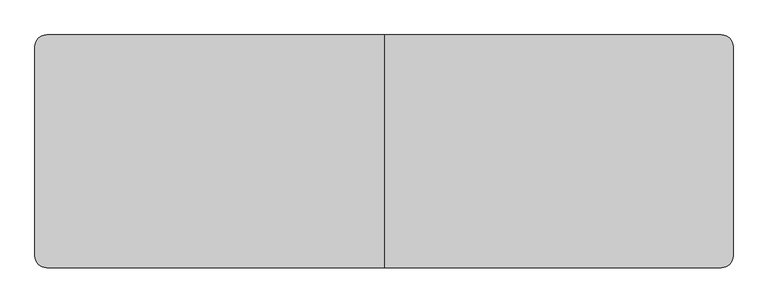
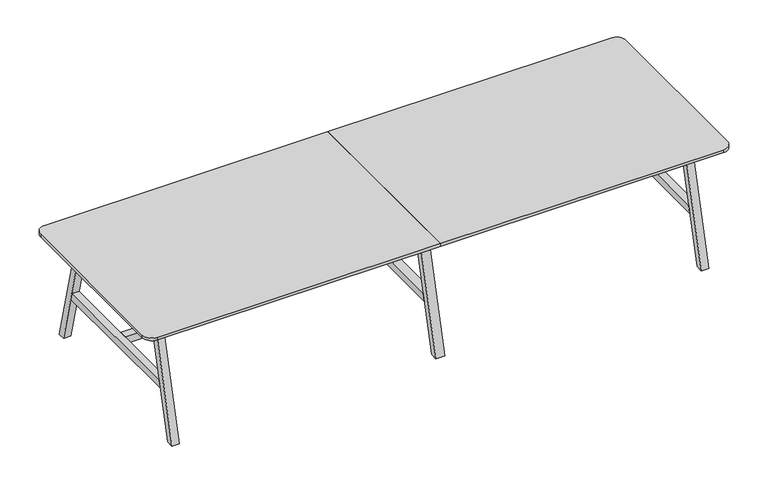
"""IFC4 building model written with IfcOpenShell, lengths in millimetres: furniture geometry, BDG_BossDesign_Tbls_AgentTables6Legs : AGE-DT-6L-3600-1200-3D."""

from ifc_helpers import new_model, si_unit, point, frame, frame_2d, origin, place, context, project, spatial, polyline, circle_curve, trimmed, segment, composite_curve, outline, extrude, source, transform, mapped, element, save


def furniture_ee9454a6(model_context):
    return source(origin(), model_context, "Body", "SweptSolid", [
        extrude(outline(polyline([(600.0, 0.0), (554.9999949, 0.0), (385.5, 660.0), (430.5000051, 660.0), (600.0, 0.0)])), frame((-27.5, 0.0, 0.0), z_axis=(1.0, 0.0, 0.0), x_axis=(0.0, 1.0, 0.0)), (0.0, 0.0, 1.0), 55.0),
        extrude(outline(polyline([(-600.0, 0.0), (-430.5000051, 660.0), (-385.5, 660.0), (-554.9999949, 0.0), (-600.0, 0.0)])), frame((-27.5, 0.0, 0.0), z_axis=(1.0, 0.0, 0.0), x_axis=(0.0, 1.0, 0.0)), (0.0, 0.0, 1.0), 55.0),
        extrude(outline(polyline([(477.9545427, 300.0), (-477.9545427, 300.0), (-466.3977249, 345.0), (466.3977249, 345.0), (477.9545427, 300.0)])), frame((-27.5, 0.0, 0.0), z_axis=(1.0, 0.0, 0.0), x_axis=(0.0, 1.0, 0.0)), (0.0, 0.0, 1.0), 55.0),
        extrude(outline(composite_curve([segment(polyline([(0.0, 600.0), (0.0, -600.0), (-1740.0, -600.0)]), True, "CONTINUOUS"), segment(trimmed(circle_curve(frame_2d((-1740.0, -540.0)), 60.0), [point((-1740.0, -600.0))], [point((-1800.0, -540.0))], False, "CARTESIAN"), True, "CONTINUOUS"), segment(polyline([(-1800.0, -540.0), (-1800.0, 540.0)]), True, "CONTINUOUS"), segment(trimmed(circle_curve(frame_2d((-1740.0, 540.0)), 60.0), [point((-1800.0, 540.0))], [point((-1740.0, 600.0))], False, "CARTESIAN"), True, "CONTINUOUS"), segment(polyline([(-1740.0, 600.0), (0.0, 600.0)]), True, "CONTINUOUS")], self_intersect=False)), frame((0.0, 0.0, 722.0), z_axis=(0.0, 0.0, 1.0), x_axis=(1.0, 0.0, 0.0)), (0.0, 0.0, 1.0), 18.0),
        extrude(outline(polyline([(-466.3977249, 345.0), (466.3977249, 345.0), (477.9545427, 300.0), (-477.9545427, 300.0), (-466.3977249, 345.0)])), frame((1605.0, 0.0, 0.0), z_axis=(1.0, 0.0, 0.0), x_axis=(0.0, 1.0, 0.0)), (0.0, 0.0, 1.0), 45.0),
        extrude(outline(polyline([(600.0, 0.0), (554.9999949, 0.0), (385.5, 660.0), (430.5000051, 660.0), (600.0, 0.0)])), frame((-1650.0, 0.0, 0.0), z_axis=(1.0, 0.0, 0.0), x_axis=(0.0, 1.0, 0.0)), (0.0, 0.0, 1.0), 45.0),
        extrude(outline(polyline([(-600.0, 0.0), (-430.5000051, 660.0), (-385.5, 660.0), (-554.9999949, 0.0), (-600.0, 0.0)])), frame((-1650.0, 0.0, 0.0), z_axis=(1.0, 0.0, 0.0), x_axis=(0.0, 1.0, 0.0)), (0.0, 0.0, 1.0), 45.0),
        extrude(outline(polyline([(-466.3977249, 345.0), (466.3977249, 345.0), (477.9545427, 300.0), (-477.9545427, 300.0), (-466.3977249, 345.0)])), frame((-1650.0, 0.0, 0.0), z_axis=(1.0, 0.0, 0.0), x_axis=(0.0, 1.0, 0.0)), (0.0, 0.0, 1.0), 45.0),
        extrude(outline(polyline([(-426.6006165, 634.973938), (-404.2770691, 722.0), (-379.5, 722.0), (-401.8235474, 634.973938), (-426.6006165, 634.973938)])), frame((-1605.0, 0.0, 0.0), z_axis=(1.0, 0.0, 0.0), x_axis=(0.0, 1.0, 0.0)), (0.0, 0.0, 1.0), 3210.0),
        extrude(outline(polyline([(426.6006165, 634.973938), (401.8235474, 634.973938), (379.5, 722.0), (404.2770691, 722.0), (426.6006165, 634.973938)])), frame((-1605.0, 0.0, 0.0), z_axis=(1.0, 0.0, 0.0), x_axis=(0.0, 1.0, 0.0)), (0.0, 0.0, 1.0), 3210.0),
        extrude(outline(polyline([(599.7999878, 0.0), (554.7999827, 0.0), (385.5, 660.0), (430.5000051, 660.0), (599.7999878, 0.0)])), frame((1605.0, 0.0, 0.0), z_axis=(1.0, 0.0, 0.0), x_axis=(0.0, 1.0, 0.0)), (0.0, 0.0, 1.0), 45.0),
        extrude(outline(polyline([(-599.7999878, 0.0), (-430.5000051, 660.0), (-385.5, 660.0), (-554.7999827, 0.0), (-599.7999878, 0.0)])), frame((1605.0, 0.0, 0.0), z_axis=(1.0, 0.0, 0.0), x_axis=(0.0, 1.0, 0.0)), (0.0, 0.0, 1.0), 45.0),
        extrude(outline(polyline([(-27.5, 22.5000305), (-27.5, -22.5000305), (-1605.0, -22.5000305), (-1605.0, 22.5000305), (-27.5, 22.5000305)])), frame((0.0, 0.0, 300.0), z_axis=(0.0, 0.0, 1.0), x_axis=(1.0, 0.0, 0.0)), (0.0, 0.0, 1.0), 45.0),
        extrude(outline(polyline([(27.5, -22.5000305), (27.5, 22.5000305), (1605.0, 22.5000305), (1605.0, -22.5000305), (27.5, -22.5000305)])), frame((0.0, 0.0, 300.0), z_axis=(0.0, 0.0, 1.0), x_axis=(1.0, 0.0, 0.0)), (0.0, 0.0, 1.0), 45.0),
        extrude(outline(composite_curve([segment(trimmed(circle_curve(frame_2d((1740.0, 540.0)), 60.0), [point((1740.0, 600.0))], [point((1800.0, 540.0))], False, "CARTESIAN"), True, "CONTINUOUS"), segment(polyline([(1800.0, 540.0), (1800.0, -540.0)]), True, "CONTINUOUS"), segment(trimmed(circle_curve(frame_2d((1740.0, -540.0)), 60.0), [point((1800.0, -540.0))], [point((1740.0, -600.0))], False, "CARTESIAN"), True, "CONTINUOUS"), segment(polyline([(1740.0, -600.0), (0.0, -600.0), (0.0, 600.0), (1740.0, 600.0)]), True, "CONTINUOUS")], self_intersect=False)), frame((0.0, 0.0, 722.0), z_axis=(0.0, 0.0, 1.0), x_axis=(1.0, 0.0, 0.0)), (0.0, 0.0, 1.0), 18.0),
    ])


if __name__ == "__main__":
    model = new_model("IFC4")
    model_context = context("Model", 3, world=origin())
    ifc_project = project(units=[si_unit("LENGTHUNIT", "METRE", prefix="MILLI")], contexts=[model_context])
    site = spatial("IfcSite", under=ifc_project)
    building = spatial("IfcBuilding", under=site)
    placement = place(None, origin())
    furniture_shape = furniture_ee9454a6(model_context)
    element("IfcFurniture", 1, ObjectType="BDG_BossDesign_Tbls_AgentTables6Legs : AGE-DT-6L-3600-1200-3D", at=placement, inside=building, context=model_context, shape_type="MappedRepresentation", body=[
        mapped(furniture_shape, transform((0.0, 0.0, 0.0), x_axis=(1.0, 0.0, 0.0), y_axis=(0.0, 1.0, 0.0), z_axis=(0.0, 0.0, 1.0))),
    ])
    save(model, "model.ifc")
